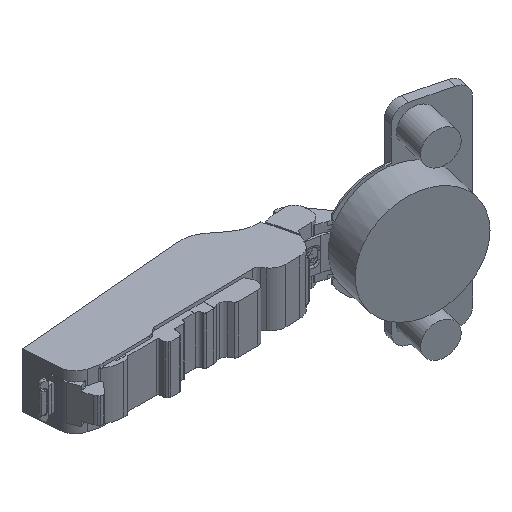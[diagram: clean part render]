
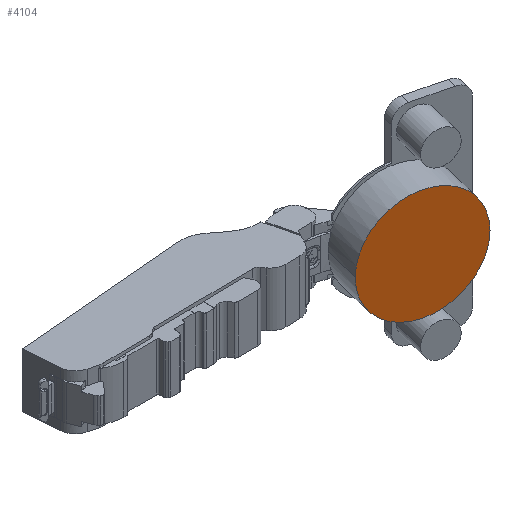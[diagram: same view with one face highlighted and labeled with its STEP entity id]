
A CAD part, isometric view. The second image highlights one B-rep face of the part: STEP entity #4104.
In plain terms, the highlighted planar face has unit normal (-0.238, -0.971, 0).
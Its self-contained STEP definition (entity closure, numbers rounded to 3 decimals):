
#1004 = DIRECTION ( 'NONE',  ( -0.238, -0.971, 0. ) ) ;
#3164 = CARTESIAN_POINT ( 'NONE',  ( 23.589, -6.247, 0. ) ) ;
#3274 = EDGE_CURVE ( 'NONE', #8941, #12894, #12236, .T. ) ;
#3463 = AXIS2_PLACEMENT_3D ( 'NONE', #3164, #1004, #11300 ) ;
#4071 = CARTESIAN_POINT ( 'NONE',  ( 40.49, -10.391, 0. ) ) ;
#4104 = ADVANCED_FACE ( 'NONE', ( #13652 ), #13456, .T. ) ;
#4238 = DIRECTION ( 'NONE',  ( 0.971, -0.238, 0. ) ) ;
#5068 = DIRECTION ( 'NONE',  ( -0.238, -0.971, 0. ) ) ;
#6077 = AXIS2_PLACEMENT_3D ( 'NONE', #8377, #5068, #4238 ) ;
#7215 = DIRECTION ( 'NONE',  ( 0.971, -0.238, 0. ) ) ;
#8377 = CARTESIAN_POINT ( 'NONE',  ( 23.589, -6.247, 0. ) ) ;
#8941 = VERTEX_POINT ( 'NONE', #4071 ) ;
#9365 = CARTESIAN_POINT ( 'NONE',  ( 23.589, -6.247, 0. ) ) ;
#9520 = ORIENTED_EDGE ( 'NONE', *, *, #3274, .T. ) ;
#9855 = CARTESIAN_POINT ( 'NONE',  ( 6.689, -2.103, 0. ) ) ;
#10057 = EDGE_CURVE ( 'NONE', #12894, #8941, #11214, .T. ) ;
#11214 = CIRCLE ( 'NONE', #11442, 17.401 ) ;
#11300 = DIRECTION ( 'NONE',  ( -0.971, 0.238, 0. ) ) ;
#11340 = ORIENTED_EDGE ( 'NONE', *, *, #10057, .T. ) ;
#11442 = AXIS2_PLACEMENT_3D ( 'NONE', #9365, #12459, #7215 ) ;
#11720 = EDGE_LOOP ( 'NONE', ( #9520, #11340 ) ) ;
#12236 = CIRCLE ( 'NONE', #6077, 17.401 ) ;
#12459 = DIRECTION ( 'NONE',  ( -0.238, -0.971, 0. ) ) ;
#12894 = VERTEX_POINT ( 'NONE', #9855 ) ;
#13456 = PLANE ( 'NONE',  #3463 ) ;
#13652 = FACE_OUTER_BOUND ( 'NONE', #11720, .T. ) ;
